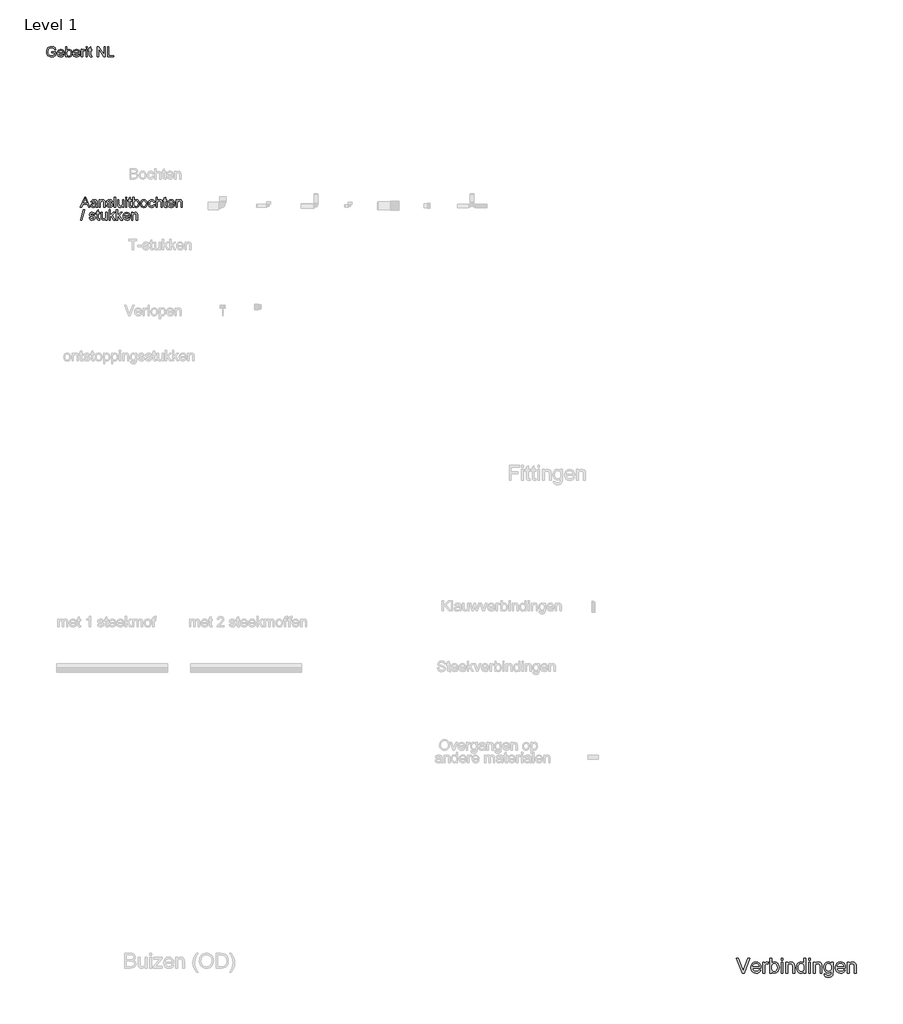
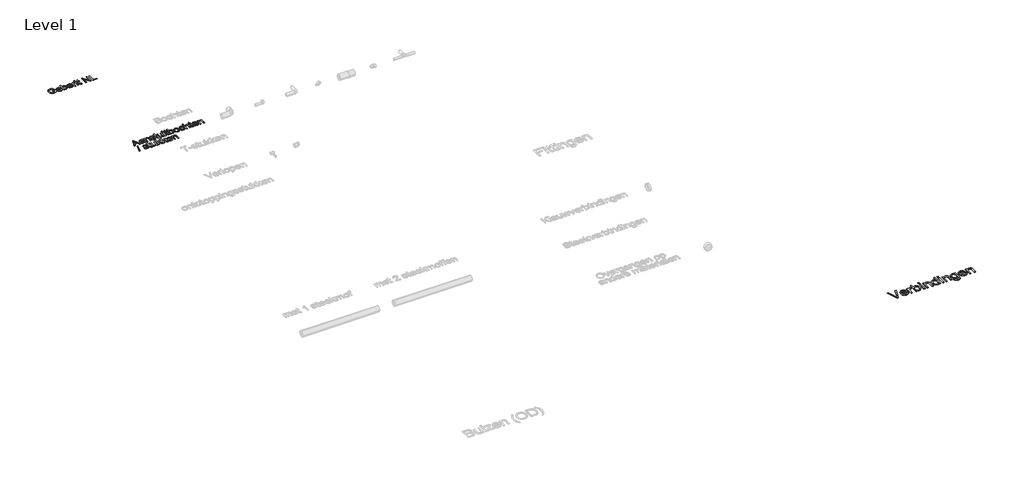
# One storey, part 3 of 6: 3 proxies.
"""IFC4 building model written with IfcOpenShell, lengths in millimetres."""

import ifcopenshell
import ifcopenshell.guid

model = None  # the IFC model being written
_history = None  # IfcOwnerHistory: only IFC2X3 demands one
_inside = {}  # id of a spatial element -> (the spatial element, [elements in it])
_under = {}  # id of a project, library or spatial element -> (it, [spatial elements below it])
_declared = {}  # id of a project -> (the project, [libraries it declares])
_typed = {}  # id of a type object -> (the type object, [elements of that type])
_made_of = {}  # id of a material, layer set ... -> (it, [elements and type objects made of it])


def new_model(schema):
    """Start an empty IFC model of exactly this schema.

    Asked for "IFC4X3", IfcOpenShell would pick the latest addendum, in which some entities
    have other attributes; the version numbers below select the first issue.
    IFC2X3 requires an IfcOwnerHistory on every rooted entity: one is made here for all.
    """
    global model, _history
    if schema == "IFC4X3":
        model = ifcopenshell.file(schema_version=(4, 3, 0, 0))
    else:
        model = ifcopenshell.file(schema=schema)
    _inside.clear()
    _under.clear()
    _declared.clear()
    _typed.clear()
    _made_of.clear()
    _history = None
    if model.schema == "IFC2X3":
        org = make("IfcOrganization", Name="unknown")
        user = make(
            "IfcPersonAndOrganization",
            ThePerson=make("IfcPerson", FamilyName="unknown"),
            TheOrganization=org,
        )
        app = make(
            "IfcApplication",
            ApplicationDeveloper=org,
            Version="unknown",
            ApplicationFullName="unknown",
            ApplicationIdentifier="unknown",
        )
        _history = make(
            "IfcOwnerHistory",
            OwningUser=user,
            OwningApplication=app,
            ChangeAction="ADDED",
            CreationDate=0,
        )
    return model


def make(cls, **values):
    """One entity of the class cls with the attributes given. An attribute that is None is left unset."""
    return model.create_entity(
        cls, **{name: value for name, value in values.items() if value is not None}
    )


def rooted(cls, **values):
    """An entity with a GlobalId (a new one), such as an element, a storey or a relation."""
    return make(cls, GlobalId=ifcopenshell.guid.new(), OwnerHistory=_history, **values)


def si_unit(unit_type, name, prefix=None):
    """IfcSIUnit, for example si_unit("LENGTHUNIT", "METRE", prefix="MILLI")."""
    return make("IfcSIUnit", UnitType=unit_type, Prefix=prefix, Name=name)


def assignment(units):
    """IfcUnitAssignment: the units of a project."""
    return None if units is None else make("IfcUnitAssignment", Units=units)


def point(xyz):
    """IfcCartesianPoint."""
    return None if xyz is None else make("IfcCartesianPoint", Coordinates=xyz)


def direction(xyz):
    """IfcDirection."""
    return None if xyz is None else make("IfcDirection", DirectionRatios=xyz)


def frame(location, z_axis=None, x_axis=None):
    """IfcAxis2Placement3D, a coordinate frame: its origin and axes. An axis left out is left unset."""
    return make(
        "IfcAxis2Placement3D",
        Location=point(location),
        Axis=direction(z_axis),
        RefDirection=direction(x_axis),
    )


def origin():
    """The frame at (0, 0, 0) with its axes left unset."""
    return frame((0.0, 0.0, 0.0))


def origin_with_axes():
    """The frame at (0, 0, 0) with the z axis (0, 0, 1) and the x axis (1, 0, 0) written out."""
    return frame((0.0, 0.0, 0.0), z_axis=(0.0, 0.0, 1.0), x_axis=(1.0, 0.0, 0.0))


def place(relative_to, where):
    """IfcLocalPlacement: puts the frame where relative to a parent placement (None: the world)."""
    return make(
        "IfcLocalPlacement", PlacementRelTo=relative_to, RelativePlacement=where
    )


def context(
    kind, dimensions, precision=None, world=None, true_north=None, identifier=None
):
    """IfcGeometricRepresentationContext, for example the 3D "Model" context."""
    return make(
        "IfcGeometricRepresentationContext",
        ContextIdentifier=identifier,
        ContextType=kind,
        CoordinateSpaceDimension=dimensions,
        Precision=precision,
        WorldCoordinateSystem=world,
        TrueNorth=true_north,
    )


def project(units=None, contexts=None):
    """IfcProject with its units and contexts."""
    return rooted(
        "IfcProject",
        Name="project",
        RepresentationContexts=contexts,
        UnitsInContext=assignment(units),
    )


def spatial(cls, under=None, at=None, **own):
    """A site, building, storey or space (cls), placed at a placement, below another one or the project."""
    s = rooted(cls, ObjectPlacement=at, **own)
    if under is not None:
        _under.setdefault(under.id(), (under, []))[1].append(s)
    return s


def polyline(points):
    """IfcPolyline through the points."""
    return make("IfcPolyline", Points=[point(p) for p in points])


def outline(outer, holes=None, kind="AREA"):
    """IfcArbitraryClosedProfileDef: a profile drawn as a closed curve; with holes, ...WithVoids."""
    if holes is None:
        return make("IfcArbitraryClosedProfileDef", ProfileType=kind, OuterCurve=outer)
    return make(
        "IfcArbitraryProfileDefWithVoids",
        ProfileType=kind,
        OuterCurve=outer,
        InnerCurves=holes,
    )


def extrude(swept, where, along, depth):
    """IfcExtrudedAreaSolid: the profile swept, set in the frame where, extruded along a direction by depth."""
    return make(
        "IfcExtrudedAreaSolid",
        SweptArea=swept,
        Position=where,
        ExtrudedDirection=direction(along),
        Depth=depth,
    )


def shape(context_of_items, identifier, shape_type, items):
    """IfcShapeRepresentation: the items that make up one representation, for example the "Body"."""
    return make(
        "IfcShapeRepresentation",
        ContextOfItems=context_of_items,
        RepresentationIdentifier=identifier,
        RepresentationType=shape_type,
        Items=items,
    )


def made_of(thing, what):
    """Note that an element or type object is made of a material, layer set ...; save() writes the relation."""
    if what is not None:
        _made_of.setdefault(what.id(), (what, []))[1].append(thing)
    return thing


def element(
    cls,
    number,
    at=None,
    inside=None,
    cuts=None,
    type_object=None,
    material=None,
    context=None,
    identifier="Body",
    shape_type=None,
    held_by="IfcProductDefinitionShape",
    body=None,
    shapes=None,
    **own,
):
    """One element of the class cls, such as IfcWall. Its Tag is "e" and its number.

    at: its placement. inside: the storey or other place that contains it. cuts: it is an
    opening in that element (IfcRelVoidsElement). A single representation is given by context,
    identifier, shape_type and body (its items); several are given by shapes. held_by: the class
    of the entity that holds the representations. save() writes the other relations.
    """
    e = rooted(cls, Tag="e%d" % number, ObjectPlacement=at, **own)
    if body is not None:
        shapes = [shape(context, identifier, shape_type, body)]
    if shapes is not None:
        e.Representation = make(held_by, Representations=shapes)
    if inside is not None:
        _inside.setdefault(inside.id(), (inside, []))[1].append(e)
    if cuts is not None:
        rooted(
            "IfcRelVoidsElement", RelatingBuildingElement=cuts, RelatedOpeningElement=e
        )
    if type_object is not None:
        _typed.setdefault(type_object.id(), (type_object, []))[1].append(e)
    return made_of(e, material)


def aggregate(whole, parts):
    """IfcRelAggregates: a whole, such as a stair, and the parts it consists of."""
    return rooted("IfcRelAggregates", RelatingObject=whole, RelatedObjects=parts)


def save(model, path):
    """Write the relations noted so far, then the file.

    IfcRelAggregates (storeys below a building ...), IfcRelContainedInSpatialStructure (elements
    in a storey), IfcRelDefinesByType, IfcRelAssociatesMaterial and IfcRelDeclares: one each for
    every whole, place, type object, material and project.
    """
    for whole, parts in _under.values():
        aggregate(whole, parts)
    for where, things in _inside.values():
        rooted(
            "IfcRelContainedInSpatialStructure",
            RelatedElements=things,
            RelatingStructure=where,
        )
    for kind, things in _typed.values():
        rooted("IfcRelDefinesByType", RelatedObjects=things, RelatingType=kind)
    for what, things in _made_of.values():
        rooted("IfcRelAssociatesMaterial", RelatedObjects=things, RelatingMaterial=what)
    for by, libraries in _declared.values():
        rooted("IfcRelDeclares", RelatingContext=by, RelatedDefinitions=libraries)
    model.write(path)


model = new_model("IFC4")

# Units and contexts
model_context = context("Model", 3, world=origin())
ifc_project = project(units=[si_unit("LENGTHUNIT", "METRE", prefix="MILLI")], contexts=[model_context])

# Site, building, storey
site = spatial("IfcSite", under=ifc_project)
building = spatial("IfcBuilding", under=site)
storey = spatial("IfcBuildingStorey", under=building, Name="Level 1", Elevation=0.0)

# Proxies
placement = place(None, origin())
element("IfcBuildingElementProxy", 1, Name="medium", ObjectType="medium", at=placement, inside=storey, context=model_context, shape_type="SweptSolid", body=[
    extrude(outline(polyline([(5766.6720122, 10891.6402542), (5686.718992, 11092.5528745), (5713.5989031, 11092.5528745), (5767.1134706, 10947.8035721), (5777.9537268, 10915.1847018), (5788.6468301, 10947.8035721), (5842.3085504, 11092.5528745), (5869.1884616, 11092.5528745), (5792.6199556, 10891.6402542), (5766.6720122, 10891.6402542)])), origin_with_axes(), (0.0, 0.0, 1.0), 5.0),
    extrude(outline(polyline([(5992.6987101, 10935.5898898), (6017.3222783, 10932.4506302), (6008.4501908, 10913.8971149), (5994.2928654, 10900.0279636), (5975.169133, 10891.3827368), (5951.3978248, 10888.5009945), (5921.9304769, 10893.4735328), (5899.2566833, 10908.3911477), (5884.7989209, 10932.2850833), (5879.9796668, 10964.1865836), (5884.8479718, 10997.1610731), (5899.452887, 11021.8214295), (5921.8201123, 11037.1988969), (5949.9753477, 11042.3247194), (5977.2537976, 11037.2111596), (5999.0508059, 11021.8704804), (6013.3430214, 10997.259175), (6018.1070932, 10964.3337364), (6017.9599404, 10957.5647077), (5905.0937443, 10957.5647077), (5909.4408832, 10938.7659377), (5919.539244, 10924.9458375), (5934.1135023, 10916.4477634), (5951.8883341, 10913.615072), (5976.5119023, 10918.8635218), (5985.6599012, 10925.6693387), (5992.6987101, 10935.5898898)]), holes=[polyline([(5905.0937443, 10982.6787852), (5992.9930157, 10982.6787852), (5989.5962386, 10995.9470625), (5982.9375745, 11005.438418), (5968.2958711, 11014.2675859), (5949.8772458, 11017.2106418), (5932.9485427, 11014.8623284), (5918.9506328, 11007.8173882), (5909.220154, 10996.8361107), (5905.0937443, 10982.6787852)])]), origin_with_axes(), (0.0, 0.0, 1.0), 5.0),
    extrude(outline(polyline([(6043.2211707, 10891.6402542), (6043.2211707, 11039.1854597), (6065.1959886, 11039.1854597), (6065.1959886, 11017.3577946), (6080.7941852, 11037.468677), (6096.4904836, 11042.3247194), (6108.9984715, 11040.3872075), (6121.7026631, 11034.574672), (6113.3149536, 11012.0602939), (6095.6566178, 11017.2106418), (6081.4563728, 11012.2564976), (6072.4064757, 10998.5222365), (6068.3352483, 10969.1897787), (6068.3352483, 10891.6402542), (6043.2211707, 10891.6402542)])), origin_with_axes(), (0.0, 0.0, 1.0), 5.0),
    extrude(outline(polyline([(6162.513039, 10891.6402542), (6137.3989615, 10891.6402542), (6137.3989615, 11092.5528745), (6162.513039, 11092.5528745), (6162.513039, 11018.0445077), (6180.0977984, 11036.2546665), (6190.4904648, 11040.8072061), (6201.9499889, 11042.3247194), (6227.1131174, 11036.8555404), (6246.6353886, 11021.478073), (6258.6283417, 10997.5657433), (6262.9693492, 10967.6201489), (6258.4750575, 10934.0938364), (6244.9921824, 10909.1514371), (6225.2062624, 10893.6636051), (6201.8028361, 10888.5009945), (6189.9662329, 10890.1656605), (6179.472399, 10895.1596586), (6170.3213344, 10903.4829887), (6162.513039, 10915.1356509), (6162.513039, 10891.6402542)]), holes=[polyline([(6162.513039, 10966.4429265), (6164.2298217, 10945.4981782), (6169.3801696, 10931.3224587), (6182.5380823, 10918.0419187), (6199.6445951, 10913.615072), (6214.1391457, 10916.876959), (6226.5245062, 10926.6626201), (6235.0225803, 10942.9107415), (6237.8552717, 10965.5600097), (6235.1390763, 10988.5403717), (6226.9904901, 11004.6045521), (6214.9914057, 11014.0591194), (6200.7237156, 11017.2106418), (6186.229165, 11013.9487548), (6173.8438045, 11004.1630937), (6165.3457304, 10988.2092779), (6162.513039, 10966.4429265)])]), origin_with_axes(), (0.0, 0.0, 1.0), 5.0),
    extrude(outline(polyline([(6291.2226864, 11067.4387969), (6291.2226864, 11092.5528745), (6316.336764, 11092.5528745), (6316.336764, 11067.4387969), (6291.2226864, 11067.4387969)])), origin_with_axes(), (0.0, 0.0, 1.0), 5.0),
    extrude(outline(polyline([(6291.2226864, 10891.6402542), (6291.2226864, 11039.1854597), (6316.336764, 11039.1854597), (6316.336764, 10891.6402542), (6291.2226864, 10891.6402542)])), origin_with_axes(), (0.0, 0.0, 1.0), 5.0),
    extrude(outline(polyline([(6354.0078803, 10891.6402542), (6354.0078803, 11039.1854597), (6379.1219578, 11039.1854597), (6379.1219578, 11018.584068), (6387.8468925, 11028.970603), (6398.325398, 11036.3895565), (6410.5574743, 11040.8409287), (6424.5431215, 11042.3247194), (6448.2592474, 11037.5422534), (6464.4460552, 11024.9852147), (6471.9753734, 11006.5175385), (6473.2997486, 10982.2373268), (6473.2997486, 10891.6402542), (6448.185671, 10891.6402542), (6448.185671, 10978.8528125), (6445.291666, 11001.072885), (6435.0645465, 11012.8205834), (6417.8231437, 11017.2106418), (6403.1139953, 11014.7458325), (6390.5753506, 11007.3514044), (6381.985306, 10993.0653202), (6379.1219578, 10969.9255427), (6379.1219578, 10891.6402542), (6354.0078803, 10891.6402542)])), origin_with_axes(), (0.0, 0.0, 1.0), 5.0),
    extrude(outline(polyline([(6598.8701363, 10891.6402542), (6598.8701363, 10915.3318546), (6591.3561465, 10903.5933533), (6582.2541328, 10895.2087095), (6571.5640952, 10890.1779232), (6559.2860336, 10888.5009945), (6543.0501749, 10890.9290156), (6528.1877423, 10898.2130791), (6515.606178, 10909.8442815), (6506.2129244, 10925.3137194), (6500.3636007, 10943.9959934), (6498.4138261, 10965.2657041), (6500.2103165, 10986.271766), (6505.5997878, 11005.2422143), (6514.5761084, 11021.0979283), (6527.1331472, 11032.7597875), (6542.3205422, 11039.9334864), (6559.1879317, 11042.3247194), (6571.4751904, 11040.6140681), (6582.3399719, 11035.4821143), (6598.8701363, 11017.7011512), (6598.8701363, 11092.5528745), (6623.9842138, 11092.5528745), (6623.9842138, 10891.6402542), (6598.8701363, 10891.6402542)]), holes=[polyline([(6523.5279036, 10965.363806), (6526.360595, 10942.6470928), (6534.8586691, 10926.4909418), (6547.2072414, 10916.8340395), (6561.5914274, 10913.615072), (6575.9694821, 10916.6868867), (6588.0053547, 10925.9023306), (6596.1539409, 10941.4330822), (6598.8701363, 10963.4508196), (6596.1048899, 10987.5225648), (6587.8091509, 11004.2121447), (6575.46671, 11013.9610176), (6560.5613578, 11017.2106418), (6546.030019, 11014.0897762), (6534.1229051, 11004.7271795), (6526.176654, 10988.6446049), (6523.5279036, 10965.363806)])]), origin_with_axes(), (0.0, 0.0, 1.0), 5.0),
    extrude(outline(polyline([(6661.6553301, 11067.4387969), (6661.6553301, 11092.5528745), (6686.7694076, 11092.5528745), (6686.7694076, 11067.4387969), (6661.6553301, 11067.4387969)])), origin_with_axes(), (0.0, 0.0, 1.0), 5.0),
    extrude(outline(polyline([(6661.6553301, 10891.6402542), (6661.6553301, 11039.1854597), (6686.7694076, 11039.1854597), (6686.7694076, 10891.6402542), (6661.6553301, 10891.6402542)])), origin_with_axes(), (0.0, 0.0, 1.0), 5.0),
    extrude(outline(polyline([(6724.4405239, 10891.6402542), (6724.4405239, 11039.1854597), (6749.5546015, 11039.1854597), (6749.5546015, 11018.584068), (6758.2795361, 11028.970603), (6768.7580416, 11036.3895565), (6780.990118, 11040.8409287), (6794.9757652, 11042.3247194), (6818.6918911, 11037.5422534), (6834.8786989, 11024.9852147), (6842.4080171, 11006.5175385), (6843.7323923, 10982.2373268), (6843.7323923, 10891.6402542), (6818.6183147, 10891.6402542), (6818.6183147, 10978.8528125), (6815.7243097, 11001.072885), (6805.4971902, 11012.8205834), (6788.2557874, 11017.2106418), (6773.5466389, 11014.7458325), (6761.0079943, 11007.3514044), (6752.4179497, 10993.0653202), (6749.5546015, 10969.9255427), (6749.5546015, 10891.6402542), (6724.4405239, 10891.6402542)])), origin_with_axes(), (0.0, 0.0, 1.0), 5.0),
    extrude(outline(polyline([(6871.9857295, 10879.0832154), (6897.099807, 10875.9439557), (6899.8711847, 10868.0958065), (6905.2422618, 10862.7002039), (6915.8004751, 10858.5063491), (6929.6205754, 10857.1083975), (6944.3603807, 10858.6902901), (6955.3232641, 10863.4359679), (6962.9261587, 10871.0388624), (6967.5859973, 10881.1924055), (6969.3027799, 10910.4758123), (6951.6199187, 10896.3491437), (6930.0620338, 10891.6402542), (6904.1692727, 10897.1216959), (6884.8615993, 10913.5660211), (6872.8502522, 10937.6745545), (6868.8464698, 10966.1486209), (6870.6429602, 10986.4250502), (6876.0324314, 11005.070536), (6884.8248111, 11020.8710677), (6896.8300269, 11032.6126347), (6911.6372772, 11039.8966982), (6928.8357605, 11042.3247194), (6951.239774, 11036.8310149), (6969.3027799, 11020.3499015), (6969.3027799, 11039.1854597), (6994.4168575, 11039.1854597), (6994.4168575, 10911.8001875), (6992.7000748, 10882.388022), (6987.5497269, 10863.0190349), (6978.6776394, 10850.1738219), (6965.7956383, 10840.3329786), (6949.1857662, 10834.0789846), (6929.1300661, 10831.99432), (6905.763428, 10834.9312446), (6887.3631969, 10843.7420184), (6875.5603162, 10858.4511668), (6871.9857295, 10879.0832154)]), holes=[polyline([(6893.9605473, 10967.8654036), (6896.6399545, 10944.8298593), (6904.6781761, 10928.9925394), (6916.7630997, 10919.8138836), (6931.5826127, 10916.7543317), (6946.2917611, 10919.7954895), (6958.4379983, 10928.918963), (6966.5865845, 10944.5539478), (6969.3027799, 10967.1296396), (6966.5068768, 10988.9021223), (6958.1191673, 11004.5800267), (6945.7951204, 11014.052988), (6931.1902052, 11017.2106418), (6916.8489388, 11014.102039), (6904.8253289, 11004.7762304), (6896.6767427, 10989.331318), (6893.9605473, 10967.8654036)])]), origin_with_axes(), (0.0, 0.0, 1.0), 5.0),
    extrude(outline(polyline([(7135.389238, 10935.5898898), (7160.0128062, 10932.4506302), (7151.1407188, 10913.8971149), (7136.9833933, 10900.0279636), (7117.859661, 10891.3827368), (7094.0883527, 10888.5009945), (7064.6210049, 10893.4735328), (7041.9472113, 10908.3911477), (7027.4894488, 10932.2850833), (7022.6701947, 10964.1865836), (7027.5384998, 10997.1610731), (7042.143415, 11021.8214295), (7064.5106403, 11037.1988969), (7092.6658757, 11042.3247194), (7119.9443256, 11037.2111596), (7141.7413338, 11021.8704804), (7156.0335493, 10997.259175), (7160.7976212, 10964.3337364), (7160.6504684, 10957.5647077), (7047.7842722, 10957.5647077), (7052.1314112, 10938.7659377), (7062.2297719, 10924.9458375), (7076.8040303, 10916.4477634), (7094.578862, 10913.615072), (7119.2024302, 10918.8635218), (7128.3504292, 10925.6693387), (7135.389238, 10935.5898898)]), holes=[polyline([(7047.7842722, 10982.6787852), (7135.6835436, 10982.6787852), (7132.2867665, 10995.9470625), (7125.6281024, 11005.438418), (7110.986399, 11014.2675859), (7092.5677738, 11017.2106418), (7075.6390706, 11014.8623284), (7061.6411607, 11007.8173882), (7051.910682, 10996.8361107), (7047.7842722, 10982.6787852)])]), origin_with_axes(), (0.0, 0.0, 1.0), 5.0),
    extrude(outline(polyline([(7185.9116987, 10891.6402542), (7185.9116987, 11039.1854597), (7211.0257762, 11039.1854597), (7211.0257762, 11018.584068), (7219.7507109, 11028.970603), (7230.2292164, 11036.3895565), (7242.4612927, 11040.8409287), (7256.4469399, 11042.3247194), (7280.1630659, 11037.5422534), (7296.3498737, 11024.9852147), (7303.8791918, 11006.5175385), (7305.203567, 10982.2373268), (7305.203567, 10891.6402542), (7280.0894895, 10891.6402542), (7280.0894895, 10978.8528125), (7277.1954844, 11001.072885), (7266.968365, 11012.8205834), (7249.7269621, 11017.2106418), (7235.0178137, 11014.7458325), (7222.479169, 11007.3514044), (7213.8891244, 10993.0653202), (7211.0257762, 10969.9255427), (7211.0257762, 10891.6402542), (7185.9116987, 10891.6402542)])), origin_with_axes(), (0.0, 0.0, 1.0), 5.0),
])
element("IfcBuildingElementProxy", 2, Name="small", ObjectType="small", at=placement, inside=storey, context=model_context, shape_type="SweptSolid", body=[
    extrude(outline(polyline([(-3572.3545095, 23327.6639594), (-3572.3545095, 23344.8947287), (-3516.3545095, 23344.8947287), (-3516.3545095, 23293.3706902), (-3544.0011441, 23277.1158825), (-3573.2295095, 23271.6639594), (-3592.5594374, 23273.8304258), (-3610.0299903, 23280.3298248), (-3624.5432114, 23290.9349931), (-3635.0011441, 23305.4187671), (-3641.3238604, 23322.7925652), (-3643.4314326, 23342.0678056), (-3641.3322739, 23361.4818681), (-3635.0347979, 23379.5413633), (-3624.799822, 23394.6898008), (-3610.8881633, 23405.3706902), (-3593.9434518, 23411.7060267), (-3574.6093172, 23413.8178056), (-3547.6525864, 23408.921171), (-3528.7559518, 23395.2913633), (-3518.3400864, 23372.4908825), (-3534.2247018, 23368.014921), (-3542.0828749, 23383.9500171), (-3555.5107595, 23393.1375171), (-3574.8785479, 23396.5870363), (-3596.9386441, 23392.8682863), (-3611.9482595, 23383.108671), (-3620.8160479, 23369.8322287), (-3626.2006633, 23342.7745363), (-3624.581072, 23326.2967719), (-3619.7222979, 23312.7384787), (-3611.7715768, 23302.1964113), (-3600.8761441, 23294.7673248), (-3574.6093172, 23288.8947287), (-3551.0347979, 23293.3202094), (-3533.5852787, 23302.7601133), (-3533.5852787, 23327.6639594), (-3572.3545095, 23327.6639594)])), origin_with_axes(), (0.0, 0.0, 1.0), 5.0),
    extrude(outline(polyline([(-3419.6333556, 23303.9716517), (-3402.7391249, 23301.8178056), (-3408.8262643, 23289.0882383), (-3418.5396056, 23279.5726133), (-3431.6603989, 23273.6411229), (-3447.9698941, 23271.6639594), (-3468.1874422, 23275.0756181), (-3483.7439326, 23285.310594), (-3493.6634037, 23301.7042238), (-3496.9698941, 23323.591844), (-3493.6297499, 23346.2156421), (-3483.6093172, 23363.1351133), (-3468.2631633, 23373.685594), (-3448.9458556, 23377.202421), (-3430.2301104, 23373.6940075), (-3415.2751826, 23363.1687671), (-3405.4692931, 23346.2829498), (-3402.2006633, 23323.6928056), (-3402.3016249, 23319.0485748), (-3479.7391249, 23319.0485748), (-3476.7565528, 23306.1507383), (-3469.8280672, 23296.6687671), (-3459.8286681, 23290.8382383), (-3447.6333556, 23288.8947287), (-3430.7391249, 23292.4956902), (-3419.6333556, 23303.9716517)]), holes=[polyline([(-3479.7391249, 23336.279344), (-3419.4314326, 23336.279344), (-3426.330471, 23351.8947287), (-3436.3761441, 23357.952421), (-3449.0131633, 23359.9716517), (-3460.627947, 23358.3604738), (-3470.2319133, 23353.5269402), (-3476.9079951, 23345.9926854), (-3479.7391249, 23336.279344)])]), origin_with_axes(), (0.0, 0.0, 1.0), 5.0),
    extrude(outline(polyline([(-3367.7391249, 23273.8178056), (-3384.9698941, 23273.8178056), (-3384.9698941, 23411.6639594), (-3367.7391249, 23411.6639594), (-3367.7391249, 23360.5437671), (-3355.674221, 23373.0377575), (-3340.6814326, 23377.202421), (-3323.4170095, 23373.4500171), (-3310.0227787, 23362.8995363), (-3301.7944133, 23346.4932863), (-3298.8160479, 23325.9476133), (-3301.8995816, 23302.9452094), (-3311.1501826, 23285.8322287), (-3324.7253028, 23275.2060267), (-3340.7823941, 23271.6639594), (-3356.1033076, 23276.232469), (-3367.7391249, 23289.9379979), (-3367.7391249, 23273.8178056)]), holes=[polyline([(-3367.7391249, 23325.139921), (-3366.5612403, 23310.7697287), (-3363.0275864, 23301.0437671), (-3353.9999422, 23291.9319883), (-3342.2631633, 23288.8947287), (-3332.3184518, 23291.1327094), (-3323.8208556, 23297.8466517), (-3317.9903268, 23308.9944883), (-3316.0468172, 23324.5341517), (-3317.9103989, 23340.3009787), (-3323.5011441, 23351.3226133), (-3331.7337162, 23357.8093921), (-3341.5227787, 23359.9716517), (-3351.4674903, 23357.733671), (-3359.9650864, 23351.0197287), (-3365.7956153, 23340.0738152), (-3367.7391249, 23325.139921)])]), origin_with_axes(), (0.0, 0.0, 1.0), 5.0),
    extrude(outline(polyline([(-3208.5564326, 23303.9716517), (-3191.6622018, 23301.8178056), (-3197.7493412, 23289.0882383), (-3207.4626826, 23279.5726133), (-3220.5834758, 23273.6411229), (-3236.892971, 23271.6639594), (-3257.1105191, 23275.0756181), (-3272.6670095, 23285.310594), (-3282.5864806, 23301.7042238), (-3285.892971, 23323.591844), (-3282.5528268, 23346.2156421), (-3272.5323941, 23363.1351133), (-3257.1862403, 23373.685594), (-3237.8689326, 23377.202421), (-3219.1531874, 23373.6940075), (-3204.1982595, 23363.1687671), (-3194.3923701, 23346.2829498), (-3191.1237403, 23323.6928056), (-3191.2247018, 23319.0485748), (-3268.6622018, 23319.0485748), (-3265.6796297, 23306.1507383), (-3258.7511441, 23296.6687671), (-3248.7517451, 23290.8382383), (-3236.5564326, 23288.8947287), (-3219.6622018, 23292.4956902), (-3208.5564326, 23303.9716517)]), holes=[polyline([(-3268.6622018, 23336.279344), (-3208.3545095, 23336.279344), (-3215.2535479, 23351.8947287), (-3225.299221, 23357.952421), (-3237.9362403, 23359.9716517), (-3249.5510239, 23358.3604738), (-3259.1549903, 23353.5269402), (-3265.831072, 23345.9926854), (-3268.6622018, 23336.279344)])]), origin_with_axes(), (0.0, 0.0, 1.0), 5.0),
    extrude(outline(polyline([(-3173.892971, 23273.8178056), (-3173.892971, 23375.0485748), (-3158.8160479, 23375.0485748), (-3158.8160479, 23360.0726133), (-3148.1141249, 23373.8706902), (-3137.3448941, 23377.202421), (-3120.0468172, 23371.8851133), (-3125.8016249, 23356.4379979), (-3137.9170095, 23359.9716517), (-3147.6597979, 23356.5726133), (-3153.8689326, 23347.1495363), (-3156.6622018, 23327.0245363), (-3156.6622018, 23273.8178056), (-3173.892971, 23273.8178056)])), origin_with_axes(), (0.0, 0.0, 1.0), 5.0),
    extrude(outline(polyline([(-3109.2775864, 23273.8178056), (-3109.2775864, 23375.0485748), (-3092.0468172, 23375.0485748), (-3092.0468172, 23273.8178056), (-3109.2775864, 23273.8178056)])), origin_with_axes(), (0.0, 0.0, 1.0), 5.0),
    extrude(outline(polyline([(-3109.2775864, 23394.4331902), (-3109.2775864, 23411.6639594), (-3092.0468172, 23411.6639594), (-3092.0468172, 23394.4331902), (-3109.2775864, 23394.4331902)])), origin_with_axes(), (0.0, 0.0, 1.0), 5.0),
    extrude(outline(polyline([(-3029.5852787, 23288.1879979), (-3027.4314326, 23273.3129979), (-3040.3208556, 23271.6639594), (-3054.7583556, 23274.5245363), (-3061.9602787, 23282.029344), (-3064.0468172, 23301.5822287), (-3064.0468172, 23357.8178056), (-3076.9698941, 23357.8178056), (-3076.9698941, 23375.0485748), (-3064.0468172, 23375.0485748), (-3064.0468172, 23399.6495363), (-3046.8160479, 23409.779344), (-3046.8160479, 23375.0485748), (-3029.5852787, 23375.0485748), (-3029.5852787, 23357.8178056), (-3046.8160479, 23357.8178056), (-3046.8160479, 23302.0870363), (-3045.9073941, 23293.202421), (-3042.9626826, 23290.0557863), (-3037.0900864, 23288.8947287), (-3029.5852787, 23288.1879979)])), origin_with_axes(), (0.0, 0.0, 1.0), 5.0),
    extrude(outline(polyline([(-2956.3545095, 23273.8178056), (-2956.3545095, 23411.6639594), (-2937.9122018, 23411.6639594), (-2865.892971, 23302.4572287), (-2865.892971, 23411.6639594), (-2848.6622018, 23411.6639594), (-2848.6622018, 23273.8178056), (-2867.1045095, 23273.8178056), (-2939.1237403, 23383.0581902), (-2939.1237403, 23273.8178056), (-2956.3545095, 23273.8178056)])), origin_with_axes(), (0.0, 0.0, 1.0), 5.0),
    extrude(outline(polyline([(-2818.5083556, 23273.8178056), (-2818.5083556, 23411.6639594), (-2801.2775864, 23411.6639594), (-2801.2775864, 23291.0485748), (-2732.3545095, 23291.0485748), (-2732.3545095, 23273.8178056), (-2818.5083556, 23273.8178056)])), origin_with_axes(), (0.0, 0.0, 1.0), 5.0),
])
element("IfcBuildingElementProxy", 3, Name="small", ObjectType="small", at=placement, inside=storey, context=model_context, shape_type="SweptSolid", body=[
    extrude(outline(polyline([(-3184.7505318, 21239.5229272), (-3128.6117393, 21380.1617614), (-3113.6413946, 21380.1617614), (-3057.5026022, 21239.5229272), (-3076.0781904, 21239.5229272), (-3092.1816116, 21283.4725629), (-3150.105858, 21283.4725629), (-3166.1749435, 21239.5229272), (-3184.7505318, 21239.5229272)]), holes=[polyline([(-3143.6507553, 21301.0524172), (-3098.6023787, 21301.0524172), (-3111.2722346, 21335.6284196), (-3121.126567, 21362.5819071), (-3129.8821585, 21338.6499571), (-3143.6507553, 21301.0524172)])]), origin_with_axes(), (0.0, 0.0, 1.0), 5.0),
    extrude(outline(polyline([(-2974.9940283, 21252.7078179), (-2992.04168, 21240.7933463), (-3010.8747856, 21237.3254454), (-3025.566153, 21239.4113363), (-3036.4033435, 21245.669009), (-3043.0859199, 21255.171401), (-3045.3134454, 21266.9914495), (-3041.9485514, 21280.8973889), (-3033.1071208, 21290.9920709), (-3020.7977892, 21296.7604605), (-3005.587095, 21299.4043058), (-2975.0970353, 21305.4473807), (-2974.9940283, 21309.3616451), (-2976.2043601, 21317.2073418), (-2979.8353554, 21322.3405219), (-2987.9557373, 21326.1517794), (-2999.2693349, 21327.4221986), (-3017.0552031, 21324.0401368), (-3025.5361093, 21312.0398261), (-3043.1159636, 21314.2373079), (-3035.5106165, 21331.4051343), (-3020.1969153, 21341.4654806), (-2997.0031818, 21345.0020528), (-2975.6979092, 21341.8775084), (-2963.6632628, 21334.0318117), (-2958.2725653, 21322.1001724), (-2957.414174, 21306.7177999), (-2957.414174, 21284.845989), (-2956.521447, 21254.3044257), (-2953.0192105, 21239.5229272), (-2970.5990647, 21239.5229272), (-2974.9940283, 21252.7078179)]), holes=[polyline([(-2974.9940283, 21287.8675264), (-3003.3552776, 21282.4768289), (-3018.4801327, 21279.6269698), (-3025.3300954, 21274.9916566), (-3027.7335911, 21268.227533), (-3022.4974041, 21258.7165571), (-3007.1321994, 21254.9052997), (-2989.3463312, 21259.1114172), (-2977.8782231, 21269.2919382), (-2975.0970353, 21282.8888568), (-2974.9940283, 21287.8675264)])]), origin_with_axes(), (0.0, 0.0, 1.0), 5.0),
    extrude(outline(polyline([(-2933.2418744, 21239.5229272), (-2933.2418744, 21342.8045711), (-2915.6620201, 21342.8045711), (-2915.6620201, 21328.3835968), (-2902.219612, 21340.8474388), (-2883.8672055, 21345.0020528), (-2867.2659174, 21341.6543267), (-2855.9351519, 21332.8643995), (-2850.6646292, 21319.9370262), (-2849.7375666, 21302.9408781), (-2849.7375666, 21239.5229272), (-2867.3174209, 21239.5229272), (-2867.3174209, 21300.571718), (-2869.3432244, 21316.1257688), (-2876.502208, 21324.3491576), (-2888.57119, 21327.4221986), (-2898.8675939, 21325.696832), (-2907.6446452, 21320.5207323), (-2913.6576764, 21310.5204734), (-2915.6620201, 21294.3226292), (-2915.6620201, 21239.5229272), (-2933.2418744, 21239.5229272)])), origin_with_axes(), (0.0, 0.0, 1.0), 5.0),
    extrude(outline(polyline([(-2832.1577123, 21270.2876722), (-2814.577858, 21272.485154), (-2811.8052541, 21264.965646), (-2806.4403083, 21259.4376059), (-2787.7960488, 21254.9052997), (-2769.872838, 21259.0599137), (-2764.035777, 21268.8112391), (-2769.9071736, 21276.7084393), (-2788.0020627, 21281.7214446), (-2814.4748511, 21290.3225256), (-2826.0287983, 21300.3657041), (-2829.9602305, 21314.5463287), (-2826.8013505, 21327.6453803), (-2818.1831016, 21337.6542231), (-2807.0068466, 21342.8560745), (-2791.8819915, 21345.0020528), (-2770.4908797, 21341.5513197), (-2756.8939612, 21332.2120221), (-2750.8508863, 21316.4347896), (-2768.4307406, 21314.2373079), (-2775.0403537, 21323.9371298), (-2790.5085654, 21327.4221986), (-2807.3330353, 21324.0916402), (-2812.3803762, 21316.3317827), (-2810.2859014, 21311.2157704), (-2803.7277917, 21307.3358416), (-2788.5857688, 21303.5932555), (-2762.7825257, 21295.3183631), (-2750.7993828, 21285.9447299), (-2746.4559227, 21270.6653643), (-2751.5547672, 21253.8408944), (-2766.2675944, 21241.6345698), (-2788.0363983, 21237.3254454), (-2805.7621791, 21239.4027524), (-2818.6981364, 21245.6346734), (-2827.3335531, 21255.9525371), (-2832.1577123, 21270.2876722)])), origin_with_axes(), (0.0, 0.0, 1.0), 5.0),
    extrude(outline(polyline([(-2726.6785866, 21239.5229272), (-2726.6785866, 21380.1617614), (-2709.0987324, 21380.1617614), (-2709.0987324, 21239.5229272), (-2726.6785866, 21239.5229272)])), origin_with_axes(), (0.0, 0.0, 1.0), 5.0),
    extrude(outline(polyline([(-2616.8044974, 21239.5229272), (-2616.8044974, 21257.2744597), (-2630.5730942, 21242.312699), (-2648.5306407, 21237.3254454), (-2665.0632575, 21240.827682), (-2676.4626943, 21249.6176091), (-2681.6988814, 21262.5621503), (-2682.728951, 21278.905921), (-2682.728951, 21342.8045711), (-2665.1490967, 21342.8045711), (-2665.1490967, 21287.1808134), (-2664.0846914, 21269.2576026), (-2657.1317217, 21258.733725), (-2644.0326702, 21254.9052997), (-2629.3541785, 21258.8195641), (-2619.6543566, 21269.4807843), (-2616.8044974, 21289.0692743), (-2616.8044974, 21342.8045711), (-2599.2246431, 21342.8045711), (-2599.2246431, 21239.5229272), (-2616.8044974, 21239.5229272)])), origin_with_axes(), (0.0, 0.0, 1.0), 5.0),
    extrude(outline(polyline([(-2575.0523435, 21362.5819071), (-2575.0523435, 21380.1617614), (-2557.4724892, 21380.1617614), (-2557.4724892, 21362.5819071), (-2575.0523435, 21362.5819071)])), origin_with_axes(), (0.0, 0.0, 1.0), 5.0),
    extrude(outline(polyline([(-2575.0523435, 21239.5229272), (-2575.0523435, 21342.8045711), (-2557.4724892, 21342.8045711), (-2557.4724892, 21239.5229272), (-2575.0523435, 21239.5229272)])), origin_with_axes(), (0.0, 0.0, 1.0), 5.0),
    extrude(outline(polyline([(-2493.7455175, 21254.184251), (-2491.5480357, 21239.0078924), (-2504.6985908, 21237.3254454), (-2519.4285858, 21240.2439759), (-2526.7764156, 21247.9008265), (-2528.905226, 21267.8498408), (-2528.905226, 21325.2247168), (-2542.0901167, 21325.2247168), (-2542.0901167, 21342.8045711), (-2528.905226, 21342.8045711), (-2528.905226, 21367.9039333), (-2511.3253718, 21378.2389648), (-2511.3253718, 21342.8045711), (-2493.7455175, 21342.8045711), (-2493.7455175, 21325.2247168), (-2511.3253718, 21325.2247168), (-2511.3253718, 21268.3648756), (-2510.3983091, 21259.3002632), (-2507.3939395, 21256.0898797), (-2501.4023681, 21254.9052997), (-2493.7455175, 21254.184251)])), origin_with_axes(), (0.0, 0.0, 1.0), 5.0),
    extrude(outline(polyline([(-2458.5858089, 21239.5229272), (-2476.1656632, 21239.5229272), (-2476.1656632, 21380.1617614), (-2458.5858089, 21380.1617614), (-2458.5858089, 21328.0059047), (-2446.2764774, 21340.7530158), (-2430.979944, 21345.0020528), (-2413.3657541, 21341.1736275), (-2399.7001642, 21330.4094004), (-2391.3050971, 21313.6707696), (-2388.2663918, 21292.7088535), (-2391.412396, 21269.2404348), (-2400.8504086, 21251.7807553), (-2414.7005526, 21240.9392729), (-2431.082951, 21237.3254454), (-2446.7142569, 21241.9865103), (-2458.5858089, 21255.9697049), (-2458.5858089, 21239.5229272)]), holes=[polyline([(-2458.5858089, 21291.8847978), (-2457.3840611, 21277.223474), (-2453.7788175, 21267.3004704), (-2444.5682786, 21258.0040923), (-2432.5937197, 21254.9052997), (-2422.4475343, 21257.1886206), (-2413.7777819, 21264.0385833), (-2407.8291301, 21275.4122684), (-2405.8462461, 21291.2667561), (-2407.7475829, 21307.3530095), (-2413.4515932, 21318.5979358), (-2421.8509523, 21325.2161329), (-2431.8383353, 21327.4221986), (-2441.9845208, 21325.1388776), (-2450.6542731, 21318.2889149), (-2456.602925, 21307.1212438), (-2458.5858089, 21291.8847978)])]), origin_with_axes(), (0.0, 0.0, 1.0), 5.0),
    extrude(outline(polyline([(-2372.8840193, 21291.1637491), (-2369.0813458, 21316.0656814), (-2357.6733251, 21333.5682804), (-2343.5785396, 21342.1436097), (-2326.7025662, 21345.0020528), (-2308.2342769, 21341.521276), (-2293.482822, 21331.0789456), (-2283.8130438, 21314.4991172), (-2280.5897844, 21292.6058465), (-2282.014714, 21274.8457301), (-2286.2895028, 21261.3260668), (-2293.289684, 21251.2013411), (-2302.8907909, 21243.6260377), (-2314.2945196, 21238.9005935), (-2326.7025662, 21237.3254454), (-2345.3940372, 21240.7933463), (-2360.1283243, 21251.1970492), (-2369.6950956, 21268.124526), (-2372.8840193, 21291.1637491)]), holes=[polyline([(-2355.3041651, 21291.1980848), (-2353.2697776, 21275.2878016), (-2347.1666153, 21263.9527442), (-2337.9818282, 21257.1671608), (-2326.7025662, 21254.9052997), (-2315.4748077, 21257.1800367), (-2306.3071884, 21264.0042477), (-2300.2040261, 21275.4895236), (-2298.1696387, 21291.7474552), (-2300.216902, 21307.1942071), (-2306.3586919, 21318.374754), (-2315.5391871, 21325.1603374), (-2326.7025662, 21327.4221986), (-2337.9818282, 21325.1689213), (-2347.1666153, 21318.4090897), (-2353.2697776, 21307.099784), (-2355.3041651, 21291.1980848)])]), origin_with_axes(), (0.0, 0.0, 1.0), 5.0),
    extrude(outline(polyline([(-2194.8879948, 21276.8801175), (-2177.3081405, 21274.6826357), (-2182.209555, 21259.0470378), (-2191.4200938, 21247.2312813), (-2204.0727819, 21239.8019044), (-2219.300644, 21237.3254454), (-2238.0006989, 21240.7804705), (-2252.6233951, 21251.1455457), (-2262.0614077, 21267.9657236), (-2265.2074119, 21290.7860569), (-2259.8338822, 21319.9885297), (-2253.0525908, 21330.937311), (-2243.4557758, 21338.752964), (-2231.9747919, 21343.4397806), (-2219.5409936, 21345.0020528), (-2204.6865317, 21342.8560745), (-2192.8106878, 21336.4181396), (-2184.2911539, 21326.0316046), (-2179.5056223, 21312.0398261), (-2197.0854766, 21309.8423443), (-2205.2401941, 21323.0100672), (-2219.4036509, 21327.4221986), (-2230.7644601, 21325.2504685), (-2239.7818609, 21318.7352784), (-2245.6661334, 21307.5246877), (-2247.6275576, 21291.2667561), (-2245.709053, 21274.7899347), (-2239.9535392, 21263.5407164), (-2231.0992327, 21257.0641539), (-2219.8843501, 21254.9052997), (-2203.3173976, 21260.2959972), (-2197.8880725, 21267.137376), (-2194.8879948, 21276.8801175)])), origin_with_axes(), (0.0, 0.0, 1.0), 5.0),
    extrude(outline(polyline([(-2161.925768, 21239.5229272), (-2161.925768, 21380.1617614), (-2144.3459137, 21380.1617614), (-2144.3459137, 21328.4522682), (-2130.6374043, 21340.8646067), (-2113.752847, 21345.0020528), (-2094.0098466, 21340.4869145), (-2082.0267038, 21328.0059047), (-2078.4214602, 21304.8980103), (-2078.4214602, 21239.5229272), (-2096.0013145, 21239.5229272), (-2096.0013145, 21303.0782207), (-2097.4004923, 21314.0827974), (-2101.5980259, 21321.6194732), (-2108.3621495, 21325.9715172), (-2117.4610975, 21327.4221986), (-2131.8649039, 21323.5079341), (-2141.4788867, 21312.8982174), (-2144.3459137, 21294.3913005), (-2144.3459137, 21239.5229272), (-2161.925768, 21239.5229272)])), origin_with_axes(), (0.0, 0.0, 1.0), 5.0),
    extrude(outline(polyline([(-2016.8919702, 21254.184251), (-2014.6944885, 21239.0078924), (-2027.8450435, 21237.3254454), (-2042.5750386, 21240.2439759), (-2049.9228683, 21247.9008265), (-2052.0516788, 21267.8498408), (-2052.0516788, 21325.2247168), (-2065.2365695, 21325.2247168), (-2065.2365695, 21342.8045711), (-2052.0516788, 21342.8045711), (-2052.0516788, 21367.9039333), (-2034.4718245, 21378.2389648), (-2034.4718245, 21342.8045711), (-2016.8919702, 21342.8045711), (-2016.8919702, 21325.2247168), (-2034.4718245, 21325.2247168), (-2034.4718245, 21268.3648756), (-2033.5447619, 21259.3002632), (-2030.5403923, 21256.0898797), (-2024.5488208, 21254.9052997), (-2016.8919702, 21254.184251)])), origin_with_axes(), (0.0, 0.0, 1.0), 5.0),
    extrude(outline(polyline([(-1927.001231, 21270.2876722), (-1909.7647332, 21268.0901904), (-1915.9751945, 21255.1027297), (-1925.8853223, 21245.3943238), (-1939.2719349, 21239.342665), (-1955.9118507, 21237.3254454), (-1976.5389942, 21240.8062222), (-1992.4106497, 21251.2485526), (-2002.5310834, 21267.9743076), (-2005.9045613, 21290.3053578), (-2002.4967478, 21313.3875004), (-1992.2733071, 21330.6497499), (-1976.6162494, 21341.4139771), (-1956.9075847, 21345.0020528), (-1937.8126697, 21341.422561), (-1922.5547639, 21330.6840856), (-1912.5502131, 21313.4561718), (-1909.2153628, 21290.4083648), (-1909.3183698, 21285.6700447), (-1988.324707, 21285.6700447), (-1985.2817098, 21272.5109057), (-1978.2128573, 21262.8368355), (-1968.0108764, 21256.8881836), (-1955.5684942, 21254.9052997), (-1938.3319964, 21258.5792145), (-1927.001231, 21270.2876722)]), holes=[polyline([(-1988.324707, 21303.2498989), (-1926.7952171, 21303.2498989), (-1933.8340259, 21319.1816419), (-1944.0832183, 21325.3620594), (-1956.976256, 21327.4221986), (-1968.8263482, 21325.7783792), (-1978.6248851, 21320.846921), (-1985.4362202, 21313.1600267), (-1988.324707, 21303.2498989)])]), origin_with_axes(), (0.0, 0.0, 1.0), 5.0),
    extrude(outline(polyline([(-1891.6355085, 21239.5229272), (-1891.6355085, 21342.8045711), (-1874.0556543, 21342.8045711), (-1874.0556543, 21328.3835968), (-1860.6132461, 21340.8474388), (-1842.2608397, 21345.0020528), (-1825.6595515, 21341.6543267), (-1814.3287861, 21332.8643995), (-1809.0582633, 21319.9370262), (-1808.1312007, 21302.9408781), (-1808.1312007, 21239.5229272), (-1825.711055, 21239.5229272), (-1825.711055, 21300.571718), (-1827.7368585, 21316.1257688), (-1834.8958421, 21324.3491576), (-1846.9648241, 21327.4221986), (-1857.261228, 21325.696832), (-1866.0382793, 21320.5207323), (-1872.0513105, 21310.5204734), (-1874.0556543, 21294.3226292), (-1874.0556543, 21239.5229272), (-1891.6355085, 21239.5229272)])), origin_with_axes(), (0.0, 0.0, 1.0), 5.0),
    extrude(outline(polyline([(-3183.7547978, 21068.7581822), (-3144.2001257, 21209.3970164), (-3128.3370541, 21209.3970164), (-3167.8917262, 21068.7581822), (-3183.7547978, 21068.7581822)])), origin_with_axes(), (0.0, 0.0, 1.0), 5.0),
    extrude(outline(polyline([(-3067.2882632, 21099.5229272), (-3049.708409, 21101.720409), (-3046.935805, 21094.200901), (-3041.5708592, 21088.6728609), (-3022.9265997, 21084.1405547), (-3005.0033889, 21088.2951687), (-2999.1663279, 21098.0464941), (-3005.0377246, 21105.9436943), (-3023.1326136, 21110.9566996), (-3049.605402, 21119.5577806), (-3061.1593492, 21129.6009591), (-3065.0907815, 21143.7815837), (-3061.9319014, 21156.8806353), (-3053.3136525, 21166.8894781), (-3042.1373975, 21172.0913296), (-3027.0125424, 21174.2373079), (-3005.6214307, 21170.7865747), (-2992.0245121, 21161.4472772), (-2985.9814372, 21145.6700447), (-3003.5612915, 21143.4725629), (-3010.1709047, 21153.1723848), (-3025.6391163, 21156.6574536), (-3042.4635862, 21153.3268953), (-3047.5109272, 21145.5670377), (-3045.4164524, 21140.4510254), (-3038.8583427, 21136.5710966), (-3023.7163197, 21132.8285105), (-2997.9130766, 21124.5536181), (-2985.9299337, 21115.1799849), (-2981.5864736, 21099.9006194), (-2986.6853181, 21083.0761495), (-3001.3981454, 21070.8698249), (-3023.1669493, 21066.5607004), (-3040.8927301, 21068.6380074), (-3053.8286873, 21074.8699284), (-3062.464104, 21085.1877921), (-3067.2882632, 21099.5229272)])), origin_with_axes(), (0.0, 0.0, 1.0), 5.0),
    extrude(outline(polyline([(-2924.4519473, 21083.419506), (-2922.2544655, 21068.2431474), (-2935.4050205, 21066.5607004), (-2950.1350156, 21069.4792309), (-2957.4828453, 21077.1360815), (-2959.6116558, 21097.0850958), (-2959.6116558, 21154.4599718), (-2972.7965465, 21154.4599718), (-2972.7965465, 21172.0398261), (-2959.6116558, 21172.0398261), (-2959.6116558, 21197.1391883), (-2942.0318015, 21207.4742198), (-2942.0318015, 21172.0398261), (-2924.4519473, 21172.0398261), (-2924.4519473, 21154.4599718), (-2942.0318015, 21154.4599718), (-2942.0318015, 21097.6001306), (-2941.1047389, 21088.5355183), (-2938.1003693, 21085.3251347), (-2932.1087978, 21084.1405547), (-2924.4519473, 21083.419506)])), origin_with_axes(), (0.0, 0.0, 1.0), 5.0),
    extrude(outline(polyline([(-2840.9476394, 21068.7581822), (-2840.9476394, 21086.5097147), (-2854.7162362, 21071.547954), (-2872.6737827, 21066.5607004), (-2889.2063996, 21070.062937), (-2900.6058363, 21078.8528641), (-2905.8420234, 21091.7974053), (-2906.872093, 21108.1411761), (-2906.872093, 21172.0398261), (-2889.2922387, 21172.0398261), (-2889.2922387, 21116.4160684), (-2888.2278335, 21098.4928576), (-2881.2748638, 21087.96898), (-2868.1758122, 21084.1405547), (-2853.4973206, 21088.0548191), (-2843.7974986, 21098.7160393), (-2840.9476394, 21118.3045293), (-2840.9476394, 21172.0398261), (-2823.3677852, 21172.0398261), (-2823.3677852, 21068.7581822), (-2840.9476394, 21068.7581822)])), origin_with_axes(), (0.0, 0.0, 1.0), 5.0),
    extrude(outline(polyline([(-2799.1954855, 21068.7581822), (-2799.1954855, 21209.3970164), (-2781.6156313, 21209.3970164), (-2781.6156313, 21133.8242444), (-2742.1983017, 21172.0398261), (-2717.8886595, 21172.0398261), (-2757.7866882, 21133.3435453), (-2715.6911777, 21068.7581822), (-2736.2238981, 21068.7581822), (-2770.3878728, 21121.1200528), (-2781.6156313, 21110.2356509), (-2781.6156313, 21068.7581822), (-2799.1954855, 21068.7581822)])), origin_with_axes(), (0.0, 0.0, 1.0), 5.0),
    extrude(outline(polyline([(-2700.3088052, 21068.7581822), (-2700.3088052, 21209.3970164), (-2682.728951, 21209.3970164), (-2682.728951, 21133.8242444), (-2643.3116214, 21172.0398261), (-2619.0019792, 21172.0398261), (-2658.9000079, 21133.3435453), (-2616.8044974, 21068.7581822), (-2637.3372178, 21068.7581822), (-2671.5011925, 21121.1200528), (-2682.728951, 21110.2356509), (-2682.728951, 21068.7581822), (-2700.3088052, 21068.7581822)])), origin_with_axes(), (0.0, 0.0, 1.0), 5.0),
    extrude(outline(polyline([(-2529.11124, 21099.5229272), (-2511.8747422, 21097.3254454), (-2518.0852034, 21084.3379847), (-2527.9953312, 21074.6295788), (-2541.3819439, 21068.57792), (-2558.0218597, 21066.5607004), (-2578.6490032, 21070.0414772), (-2594.5206587, 21080.4838077), (-2604.6410924, 21097.2095626), (-2608.0145703, 21119.5406128), (-2604.6067567, 21142.6227555), (-2594.3833161, 21159.885005), (-2578.7262584, 21170.6492321), (-2559.0175936, 21174.2373079), (-2539.9226787, 21170.657816), (-2524.6647729, 21159.9193406), (-2514.660222, 21142.6914268), (-2511.3253718, 21119.6436198), (-2511.4283787, 21114.9052997), (-2590.434716, 21114.9052997), (-2587.3917188, 21101.7461607), (-2580.3228662, 21092.0720905), (-2570.1208854, 21086.1234386), (-2557.6785032, 21084.1405547), (-2540.4420054, 21087.8144696), (-2529.11124, 21099.5229272)]), holes=[polyline([(-2590.434716, 21132.485154), (-2528.905226, 21132.485154), (-2535.9440349, 21148.4168969), (-2546.1932273, 21154.5973144), (-2559.0862649, 21156.6574536), (-2570.9363571, 21155.0136342), (-2580.7348941, 21150.0821761), (-2587.5462292, 21142.3952818), (-2590.434716, 21132.485154)])]), origin_with_axes(), (0.0, 0.0, 1.0), 5.0),
    extrude(outline(polyline([(-2493.7455175, 21068.7581822), (-2493.7455175, 21172.0398261), (-2476.1656632, 21172.0398261), (-2476.1656632, 21157.6188519), (-2462.7232551, 21170.0826939), (-2444.3708486, 21174.2373079), (-2427.7695605, 21170.8895817), (-2416.438795, 21162.0996546), (-2411.1682723, 21149.1722813), (-2410.2412097, 21132.1761331), (-2410.2412097, 21068.7581822), (-2427.821064, 21068.7581822), (-2427.821064, 21129.806973), (-2429.8468675, 21145.3610238), (-2437.0058511, 21153.5844126), (-2449.0748331, 21156.6574536), (-2459.371237, 21154.932087), (-2468.1482883, 21149.7559874), (-2474.1613195, 21139.7557284), (-2476.1656632, 21123.5578842), (-2476.1656632, 21068.7581822), (-2493.7455175, 21068.7581822)])), origin_with_axes(), (0.0, 0.0, 1.0), 5.0),
])

save(model, "model.ifc")
